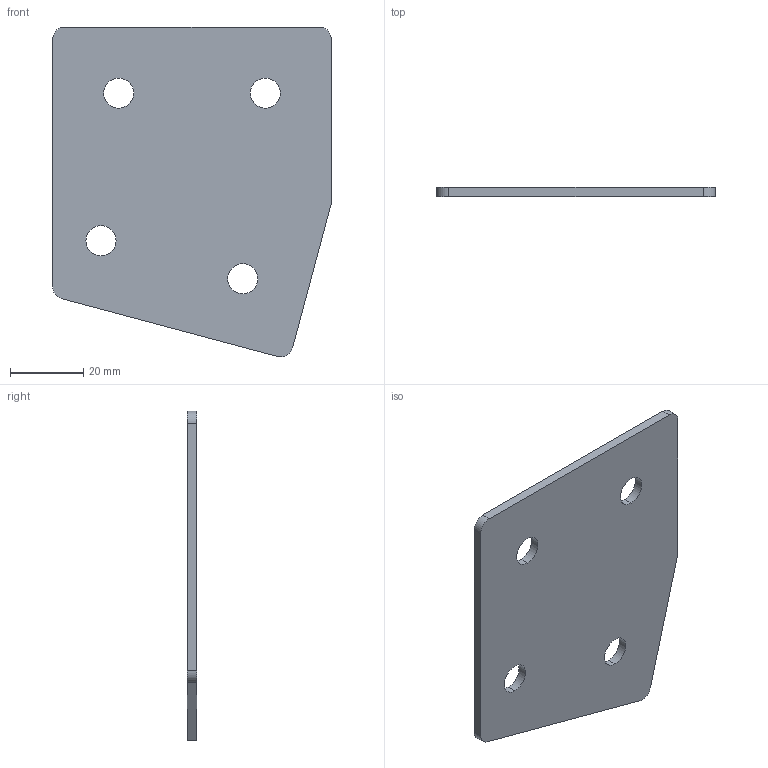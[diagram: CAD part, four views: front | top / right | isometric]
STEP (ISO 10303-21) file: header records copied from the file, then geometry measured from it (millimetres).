
FILE_DESCRIPTION (( 'STEP AP203' ), '1' );
FILE_NAME ('Ï-4-óãîë 15-40.STEP', '2016-07-23T15:50:21', ( '' ), ( '' ), 'SwSTEP 2.0', 'SolidWorks 2014', '' );
FILE_SCHEMA (( 'CONFIG_CONTROL_DESIGN' ));
Length unit declared in the file: millimetre
Products named in the file (1): Ï-4-óãîë 15-40
Bounding box: 76 x 2.5 x 89.87 mm (x, y, z)
Volume: 14664.9 mm3; surface area: 12747.8 mm2
Topology: 1 solids, 1 shells, 20 faces, 54 edges, 36 vertices
Faces by surface type: cylinder 13, plane 7
Entity records: 737 total; most frequent: DIRECTION 122, CARTESIAN_POINT 111, ORIENTED_EDGE 108, EDGE_CURVE 54, AXIS2_PLACEMENT_3D 47, VERTEX_POINT 36, EDGE_LOOP 28, LINE 28
